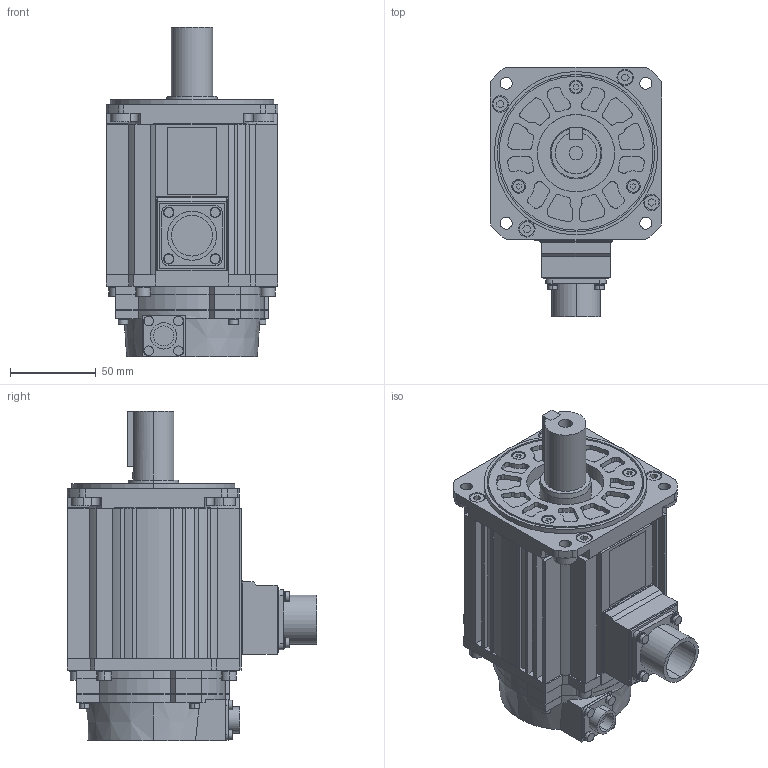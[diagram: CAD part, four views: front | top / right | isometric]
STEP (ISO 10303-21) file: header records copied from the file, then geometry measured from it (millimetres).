
FILE_DESCRIPTION (( 'STEP AP203' ), '1' );
FILE_NAME ('sgmsv_10__a61.STEP', '2009-09-22T00:16:07', ( 'T' ), ( 'T' ), 'SwSTEP 2.0', 'SolidWorks 2006052', '' );
FILE_SCHEMA (( 'CONFIG_CONTROL_DESIGN' ));
Length unit declared in the file: millimetre
Products named in the file (3): sgmsv_10__a61; sgmsv_10__a61_base; sgmsv_10__a61_key
Assembly tree (2 placements, depth 2):
  sgmsv_10__a61
    sgmsv_10__a61_key
    sgmsv_10__a61_base
Bounding box: 100 x 144.99 x 191.6 mm (x, y, z)
Volume: 1202961.6 mm3; surface area: 121354 mm2
Topology: 2 solids, 2 shells, 822 faces, 2109 edges, 1387 vertices
Faces by surface type: plane 459, cylinder 358, cone 5
Entity records: 25449 total; most frequent: DIRECTION 4535, CARTESIAN_POINT 4365, ORIENTED_EDGE 4218, EDGE_CURVE 2109, AXIS2_PLACEMENT_3D 1602, VERTEX_POINT 1387, LINE 1331, VECTOR 1331
